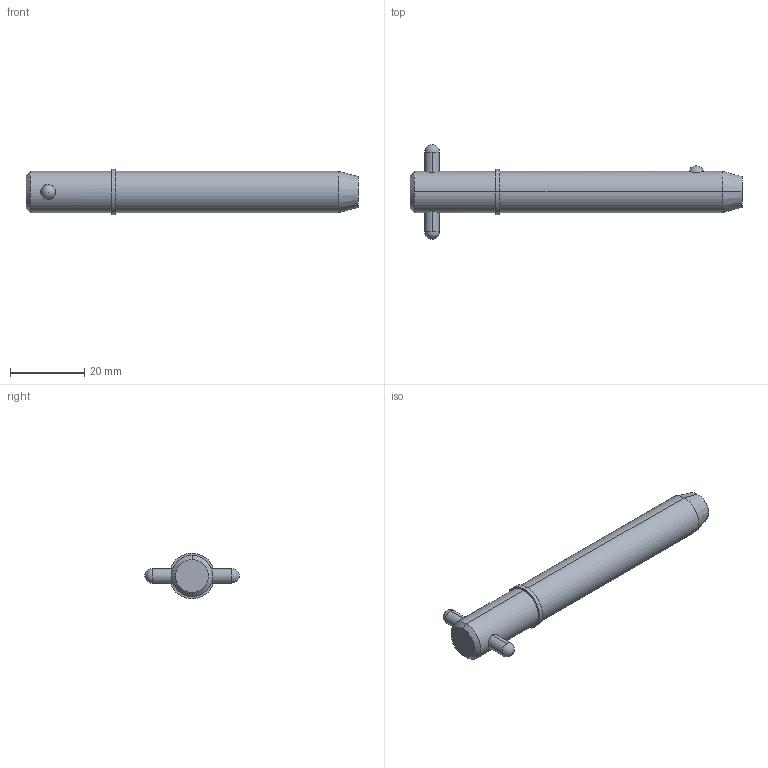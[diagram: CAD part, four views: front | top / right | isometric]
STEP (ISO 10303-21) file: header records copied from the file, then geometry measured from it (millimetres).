
FILE_DESCRIPTION (( 'STEP AP203' ), '1' );
FILE_NAME ('33018.W4320.step', '2024-11-19T17:12:57', ( '' ), ( '' ), 'SwSTEP 2.0', 'SolidWorks 2019', '' );
FILE_SCHEMA (( 'CONFIG_CONTROL_DESIGN' ));
Length unit declared in the file: millimetre
Products named in the file (3): 33018.W4320; Part2_33018.W4320; Part1_33018.W4320
Assembly tree (2 placements, depth 2):
  33018.W4320
    Part1_33018.W4320
    Part2_33018.W4320
Bounding box: 89.2 x 25.4 x 12.22 mm (x, y, z)
Volume: 8708.6 mm3; surface area: 3701.4 mm2
Topology: 2 solids, 2 shells, 22 faces, 47 edges, 30 vertices
Faces by surface type: cylinder 10, sphere 4, cone 4, plane 4
Entity records: 1031 total; most frequent: CARTESIAN_POINT 274, DIRECTION 110, ORIENTED_EDGE 82, AXIS2_PLACEMENT_3D 48, EDGE_CURVE 41, EDGE_LOOP 27, PERSON_AND_ORGANIZATION 26, VERTEX_POINT 26
